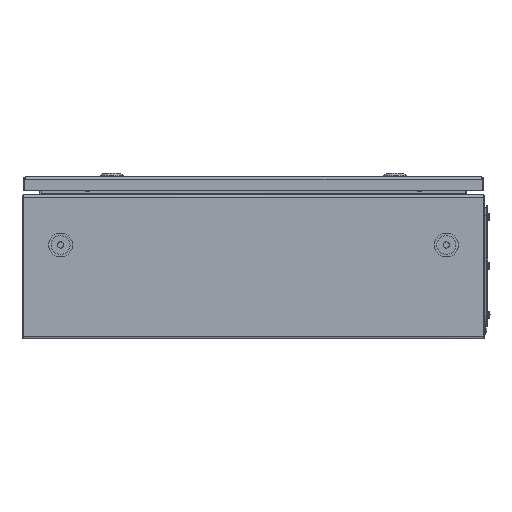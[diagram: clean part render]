
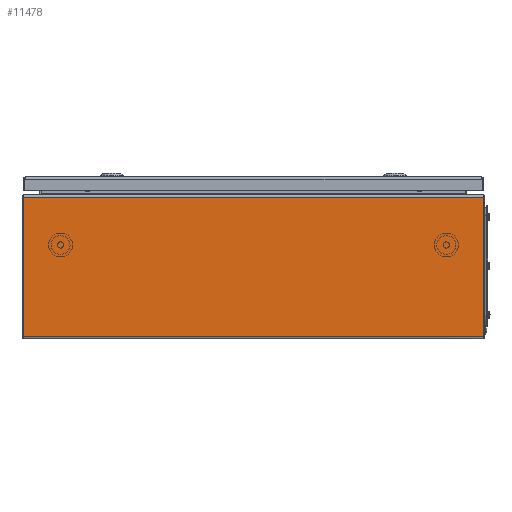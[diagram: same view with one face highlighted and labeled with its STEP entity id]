
A CAD part, left-side view. The second image highlights one B-rep face of the part: STEP entity #11478.
In plain terms, the highlighted planar face has unit normal (-1, 0, 0).
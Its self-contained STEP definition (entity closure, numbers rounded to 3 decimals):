
#875 = CARTESIAN_POINT ( 'NONE',  ( -200., -3300., 183.85 ) ) ;
#1584 = VECTOR ( 'NONE', #18110, 1000. ) ;
#2050 = PLANE ( 'NONE',  #7400 ) ;
#2881 = EDGE_CURVE ( 'NONE', #47895, #19132, #5761, .T. ) ;
#3453 = EDGE_CURVE ( 'NONE', #19132, #5924, #22896, .T. ) ;
#4421 = DIRECTION ( 'NONE',  ( 0., -1., 0. ) ) ;
#5018 = LINE ( 'NONE', #30447, #28971 ) ;
#5761 = LINE ( 'NONE', #51702, #47027 ) ;
#5924 = VERTEX_POINT ( 'NONE', #20570 ) ;
#6873 = ORIENTED_EDGE ( 'NONE', *, *, #15297, .T. ) ;
#7162 = ORIENTED_EDGE ( 'NONE', *, *, #3453, .F. ) ;
#7400 = AXIS2_PLACEMENT_3D ( 'NONE', #10490, #38652, #18718 ) ;
#7535 = CARTESIAN_POINT ( 'NONE',  ( -200., 298.529, 2.9 ) ) ;
#8805 = CARTESIAN_POINT ( 'NONE',  ( -200., -298.529, 183.85 ) ) ;
#10490 = CARTESIAN_POINT ( 'NONE',  ( -200., -3300., 183.85 ) ) ;
#11478 = ADVANCED_FACE ( 'NONE', ( #31007 ), #2050, .F. ) ;
#11485 = VECTOR ( 'NONE', #34206, 1000. ) ;
#12993 = VERTEX_POINT ( 'NONE', #20392 ) ;
#15018 = VECTOR ( 'NONE', #25485, 1000. ) ;
#15297 = EDGE_CURVE ( 'NONE', #42648, #41698, #42418, .T. ) ;
#16330 = CARTESIAN_POINT ( 'NONE',  ( -200., 298.529, 2.9 ) ) ;
#16613 = EDGE_CURVE ( 'NONE', #51752, #12993, #17546, .T. ) ;
#17078 = DIRECTION ( 'NONE',  ( 0., -1., 0. ) ) ;
#17546 = LINE ( 'NONE', #46802, #24474 ) ;
#17979 = ORIENTED_EDGE ( 'NONE', *, *, #51737, .T. ) ;
#18110 = DIRECTION ( 'NONE',  ( 0., 0., 1. ) ) ;
#18718 = DIRECTION ( 'NONE',  ( 0., 0., -1. ) ) ;
#19132 = VERTEX_POINT ( 'NONE', #16330 ) ;
#20128 = EDGE_CURVE ( 'NONE', #44373, #42648, #46524, .T. ) ;
#20336 = CARTESIAN_POINT ( 'NONE',  ( -200., -3300., 2.9 ) ) ;
#20390 = DIRECTION ( 'NONE',  ( 0., 0., 1. ) ) ;
#20392 = CARTESIAN_POINT ( 'NONE',  ( -200., -298.529, 2.9 ) ) ;
#20570 = CARTESIAN_POINT ( 'NONE',  ( -200., 298.529, 183.85 ) ) ;
#20609 = LINE ( 'NONE', #20336, #40119 ) ;
#21371 = VECTOR ( 'NONE', #20390, 1000. ) ;
#22490 = DIRECTION ( 'NONE',  ( 0., 1., 0. ) ) ;
#22896 = LINE ( 'NONE', #7535, #21371 ) ;
#24319 = EDGE_CURVE ( 'NONE', #5924, #41698, #5018, .T. ) ;
#24474 = VECTOR ( 'NONE', #4421, 1000. ) ;
#24656 = CARTESIAN_POINT ( 'NONE',  ( -200., -298.423, 183.85 ) ) ;
#25485 = DIRECTION ( 'NONE',  ( 0., 1., 0. ) ) ;
#28263 = CARTESIAN_POINT ( 'NONE',  ( -200., 298.423, 183.85 ) ) ;
#28265 = DIRECTION ( 'NONE',  ( 0., 1., 0. ) ) ;
#28971 = VECTOR ( 'NONE', #17078, 1000. ) ;
#30447 = CARTESIAN_POINT ( 'NONE',  ( -200., 298.529, 183.85 ) ) ;
#31007 = FACE_OUTER_BOUND ( 'NONE', #37728, .T. ) ;
#32942 = EDGE_CURVE ( 'NONE', #51752, #47895, #20609, .T. ) ;
#34206 = DIRECTION ( 'NONE',  ( 0., 1., 0. ) ) ;
#35266 = ORIENTED_EDGE ( 'NONE', *, *, #32942, .F. ) ;
#37728 = EDGE_LOOP ( 'NONE', ( #6873, #42981, #7162, #51076, #35266, #42852, #17979, #49496 ) ) ;
#38067 = CARTESIAN_POINT ( 'NONE',  ( -200., -298.529, 183.85 ) ) ;
#38652 = DIRECTION ( 'NONE',  ( 1., 0., 0. ) ) ;
#40119 = VECTOR ( 'NONE', #28265, 1000. ) ;
#41698 = VERTEX_POINT ( 'NONE', #28263 ) ;
#42418 = LINE ( 'NONE', #875, #11485 ) ;
#42648 = VERTEX_POINT ( 'NONE', #24656 ) ;
#42852 = ORIENTED_EDGE ( 'NONE', *, *, #16613, .T. ) ;
#42981 = ORIENTED_EDGE ( 'NONE', *, *, #24319, .F. ) ;
#44373 = VERTEX_POINT ( 'NONE', #38067 ) ;
#46078 = CARTESIAN_POINT ( 'NONE',  ( -200., -298.529, 2.9 ) ) ;
#46524 = LINE ( 'NONE', #8805, #15018 ) ;
#46802 = CARTESIAN_POINT ( 'NONE',  ( -200., -298.423, 2.9 ) ) ;
#47027 = VECTOR ( 'NONE', #22490, 1000. ) ;
#47895 = VERTEX_POINT ( 'NONE', #50589 ) ;
#49496 = ORIENTED_EDGE ( 'NONE', *, *, #20128, .T. ) ;
#49898 = LINE ( 'NONE', #46078, #1584 ) ;
#50589 = CARTESIAN_POINT ( 'NONE',  ( -200., 298.423, 2.9 ) ) ;
#51076 = ORIENTED_EDGE ( 'NONE', *, *, #2881, .F. ) ;
#51438 = CARTESIAN_POINT ( 'NONE',  ( -200., -298.423, 2.9 ) ) ;
#51702 = CARTESIAN_POINT ( 'NONE',  ( -200., 298.423, 2.9 ) ) ;
#51737 = EDGE_CURVE ( 'NONE', #12993, #44373, #49898, .T. ) ;
#51752 = VERTEX_POINT ( 'NONE', #51438 ) ;
